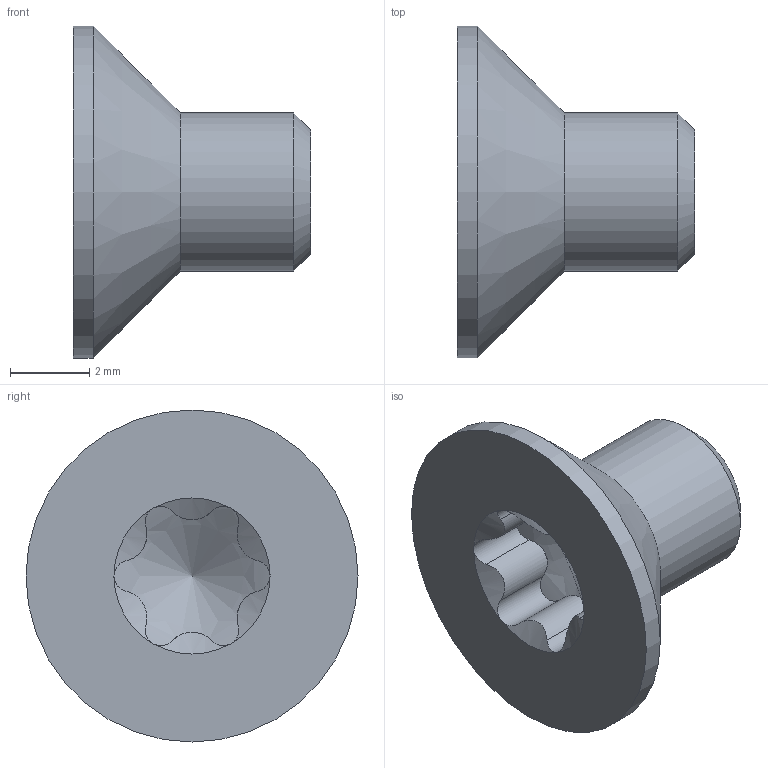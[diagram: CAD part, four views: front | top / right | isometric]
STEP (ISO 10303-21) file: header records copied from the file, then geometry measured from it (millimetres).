
FILE_DESCRIPTION(/* description */ ('BN 3803-Hexalobular (6 Lobe) socket countersunk flat head screws, fully threaded (ISO 14581), stainless steel A2'),/* implementation_level */ '2;1');
FILE_NAME(/* name */ 'C:\ADSK_DMS_WS\Designs\Vorschläge\Loc Schalen\Schraubenlängebestimmung\Schrauben\M4x6 Senkkopfschraube 90°mit TX20 A2.stp',/* time_stamp */ '2021-10-05T14:00:35+02:00',/* author */ ('gm'),/* organization */ ('BOSSARD'),/* preprocessor_version */ 'ST-DEVELOPER v16.5',/* originating_system */ 'Autodesk Inventor 2017',/* authorisation */ '');
FILE_SCHEMA (('AUTOMOTIVE_DESIGN { 1 0 10303 214 3 1 1 }'));
Length unit declared in the file: millimetre
Products named in the file (1): BN 3803  M4x6_INOX A2
Bounding box: 6 x 8.4 x 8.4 mm (x, y, z)
Volume: 119 mm3; surface area: 201.8 mm2
Topology: 1 solids, 1 shells, 31 faces, 83 edges, 54 vertices
Faces by surface type: cylinder 14, cone 9, plane 8
Full cylindrical faces by diameter (mm): 4 x1, 8.4 x1
Entity records: 1204 total; most frequent: CARTESIAN_POINT 492, ORIENTED_EDGE 154, DIRECTION 122, EDGE_CURVE 77, AXIS2_PLACEMENT_3D 55, VERTEX_POINT 53, B_SPLINE_CURVE_WITH_KNOTS 42, EDGE_LOOP 36
